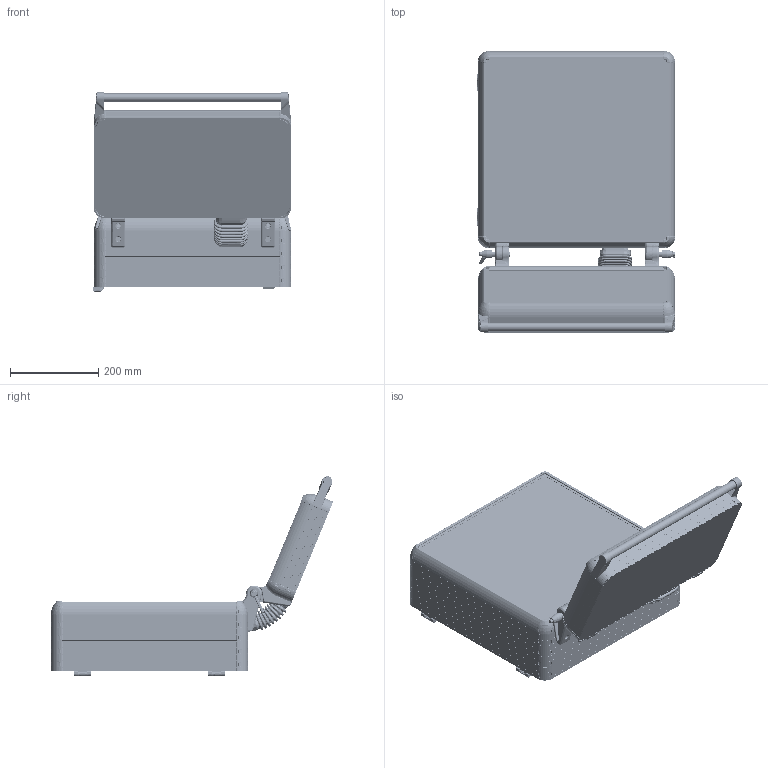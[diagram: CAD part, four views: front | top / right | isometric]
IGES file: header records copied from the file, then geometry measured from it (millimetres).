
Start section: SolidWorks IGES file using analytic representation for surfaces
Global section: file name: D:\KLAVYE\KLV 6090\6090 datalar\6090-6008.IGS; native system: SolidWorks 2022; preprocessor: SolidWorks 2022; author: User; date: 220509.093017; units: millimetre
Bounding box: 449.03 x 639.65 x 451.82 mm (x, y, z)
Surface area: 2805042.2 mm2 (no closed solid volume)
Topology: 0 solids, 0 shells, 20813 faces, 163424 edges, 162545 vertices
Faces by surface type: bspline 13592, revolution 7221
